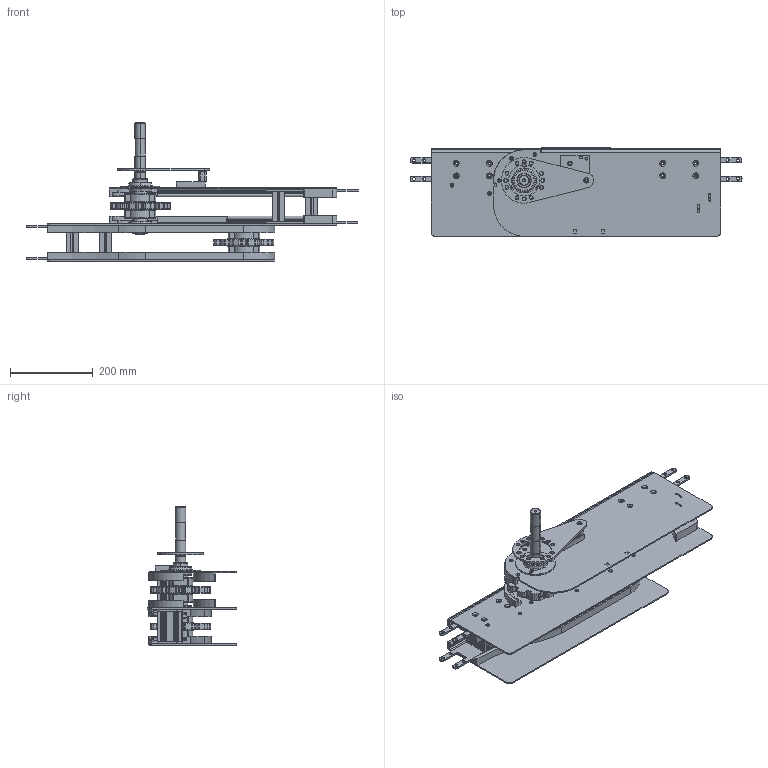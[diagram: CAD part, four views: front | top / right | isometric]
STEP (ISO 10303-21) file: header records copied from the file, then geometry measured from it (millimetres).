
FILE_DESCRIPTION (( 'STEP AP203' ), '1' );
FILE_NAME ('2000.325.763L.STEP', '2015-04-15T12:24:28', ( '' ), ( '' ), 'SwSTEP 2.0', 'SolidWorks 2012', '' );
FILE_SCHEMA (( 'CONFIG_CONTROL_DESIGN' ));
Length unit declared in the file: millimetre
Products named in the file (1): 2000.325.763L
Bounding box: 800.6 x 214.8 x 333.5 mm (x, y, z)
Volume: 3421838.7 mm3; surface area: 1682382.7 mm2
Topology: 41 solids, 41 shells, 2345 faces, 6124 edges, 3866 vertices
Faces by surface type: cylinder 974, plane 881, torus 344, cone 126, sphere 20
Entity records: 73446 total; most frequent: DIRECTION 13379, CARTESIAN_POINT 13054, ORIENTED_EDGE 12184, EDGE_CURVE 6092, AXIS2_PLACEMENT_3D 5017, VERTEX_POINT 3852, LINE 3345, VECTOR 3345
